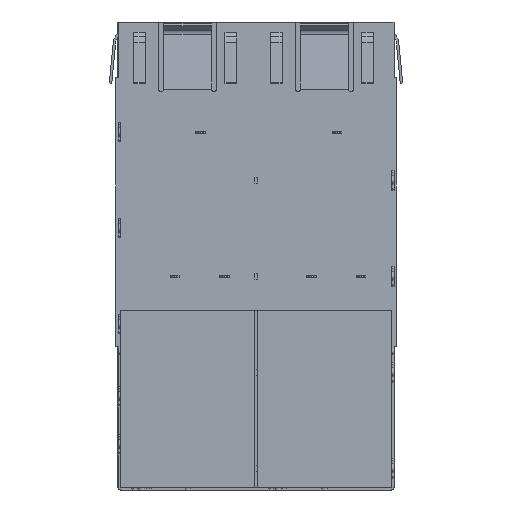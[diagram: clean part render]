
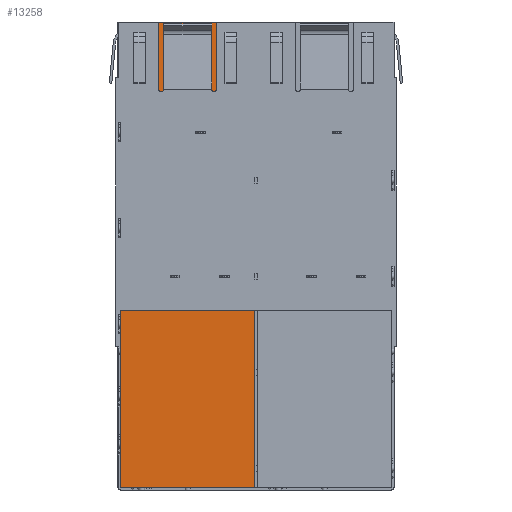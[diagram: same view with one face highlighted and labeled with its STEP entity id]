
A CAD part, front view. The second image highlights one B-rep face of the part: STEP entity #13258.
In plain terms, the highlighted planar face has unit normal (0, -1, 0).
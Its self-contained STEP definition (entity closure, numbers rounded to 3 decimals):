
#520 = ORIENTED_EDGE ( 'NONE', *, *, #7139, .F. ) ;
#895 = ORIENTED_EDGE ( 'NONE', *, *, #15013, .T. ) ;
#2545 = DIRECTION ( 'NONE',  ( 0., 1., 0. ) ) ;
#2599 = DIRECTION ( 'NONE',  ( -1., 0., 0. ) ) ;
#3608 = DIRECTION ( 'NONE',  ( 0., 0., 1. ) ) ;
#5151 = FACE_OUTER_BOUND ( 'NONE', #11512, .T. ) ;
#5516 = AXIS2_PLACEMENT_3D ( 'NONE', #11930, #2545, #3608 ) ;
#5816 = LINE ( 'NONE', #8450, #11526 ) ;
#7035 = ORIENTED_EDGE ( 'NONE', *, *, #7545, .F. ) ;
#7139 = EDGE_CURVE ( 'NONE', #13462, #13588, #12364, .T. ) ;
#7311 = CARTESIAN_POINT ( 'NONE',  ( -0.125, 9.2, 0. ) ) ;
#7545 = EDGE_CURVE ( 'NONE', #11211, #13462, #15106, .T. ) ;
#7956 = DIRECTION ( 'NONE',  ( -1., 0., 0. ) ) ;
#8450 = CARTESIAN_POINT ( 'NONE',  ( 14.075, 9.2, 0. ) ) ;
#8742 = CARTESIAN_POINT ( 'NONE',  ( -14.075, 9.2, 0. ) ) ;
#9610 = VERTEX_POINT ( 'NONE', #8742 ) ;
#10153 = VECTOR ( 'NONE', #11523, 1000. ) ;
#10193 = DIRECTION ( 'NONE',  ( 0., 0., -1. ) ) ;
#10609 = PLANE ( 'NONE',  #5516 ) ;
#11144 = ORIENTED_EDGE ( 'NONE', *, *, #12064, .F. ) ;
#11211 = VERTEX_POINT ( 'NONE', #7311 ) ;
#11410 = CARTESIAN_POINT ( 'NONE',  ( -14.075, 9.2, -48.5 ) ) ;
#11429 = VECTOR ( 'NONE', #7956, 1000. ) ;
#11512 = EDGE_LOOP ( 'NONE', ( #7035, #895, #11144, #520 ) ) ;
#11523 = DIRECTION ( 'NONE',  ( 0., 0., 1. ) ) ;
#11526 = VECTOR ( 'NONE', #2599, 1000. ) ;
#11577 = CARTESIAN_POINT ( 'NONE',  ( -14.075, 9.2, -78.384 ) ) ;
#11930 = CARTESIAN_POINT ( 'NONE',  ( 14.075, 9.2, -78.384 ) ) ;
#12064 = EDGE_CURVE ( 'NONE', #13588, #9610, #13666, .T. ) ;
#12364 = LINE ( 'NONE', #14936, #11429 ) ;
#13258 = ADVANCED_FACE ( 'NONE', ( #5151 ), #10609, .F. ) ;
#13462 = VERTEX_POINT ( 'NONE', #13647 ) ;
#13588 = VERTEX_POINT ( 'NONE', #11410 ) ;
#13647 = CARTESIAN_POINT ( 'NONE',  ( -0.125, 9.2, -48.5 ) ) ;
#13666 = LINE ( 'NONE', #11577, #10153 ) ;
#14749 = VECTOR ( 'NONE', #10193, 1000. ) ;
#14767 = CARTESIAN_POINT ( 'NONE',  ( -0.125, 9.2, 8.953 ) ) ;
#14936 = CARTESIAN_POINT ( 'NONE',  ( 14.075, 9.2, -48.5 ) ) ;
#15013 = EDGE_CURVE ( 'NONE', #11211, #9610, #5816, .T. ) ;
#15106 = LINE ( 'NONE', #14767, #14749 ) ;
